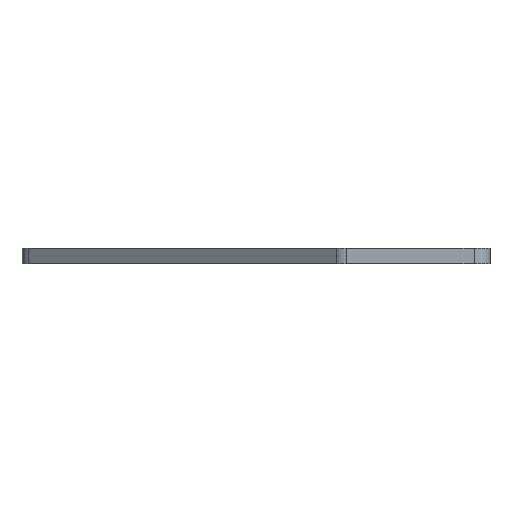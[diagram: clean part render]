
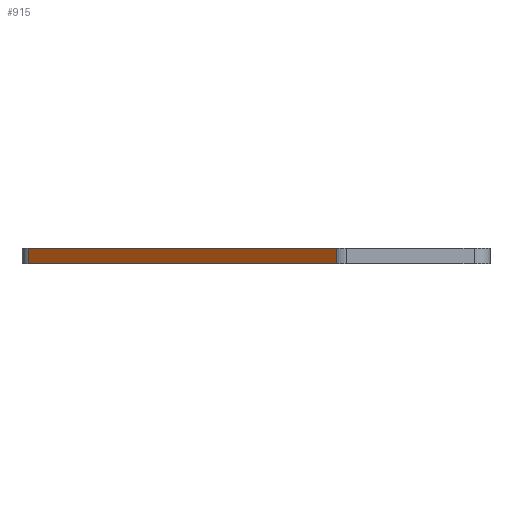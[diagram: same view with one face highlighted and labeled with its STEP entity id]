
A CAD part, left-side view. The second image highlights one B-rep face of the part: STEP entity #915.
In plain terms, the highlighted planar face has unit normal (-0.794, 0.608, 0).
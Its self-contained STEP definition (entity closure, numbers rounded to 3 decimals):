
#22 = DIRECTION ( 'NONE',  ( -0.608, -0.794, 0. ) ) ;
#61 = VECTOR ( 'NONE', #861, 1000. ) ;
#75 = CARTESIAN_POINT ( 'NONE',  ( -24.387, 54.297, 3. ) ) ;
#87 = ORIENTED_EDGE ( 'NONE', *, *, #526, .T. ) ;
#93 = ORIENTED_EDGE ( 'NONE', *, *, #995, .T. ) ;
#102 = CARTESIAN_POINT ( 'NONE',  ( -23.486, 55.472, 3. ) ) ;
#136 = VECTOR ( 'NONE', #580, 1000. ) ;
#225 = VECTOR ( 'NONE', #22, 1000. ) ;
#264 = CARTESIAN_POINT ( 'NONE',  ( -68.867, -3.72, 3. ) ) ;
#289 = FACE_OUTER_BOUND ( 'NONE', #1066, .T. ) ;
#337 = VERTEX_POINT ( 'NONE', #706 ) ;
#348 = CARTESIAN_POINT ( 'NONE',  ( -23.486, 55.472, 3. ) ) ;
#356 = DIRECTION ( 'NONE',  ( 0., 0., 1. ) ) ;
#410 = EDGE_CURVE ( 'NONE', #876, #1054, #931, .T. ) ;
#422 = LINE ( 'NONE', #264, #626 ) ;
#434 = CARTESIAN_POINT ( 'NONE',  ( -24.387, 54.297, 3. ) ) ;
#461 = CARTESIAN_POINT ( 'NONE',  ( -24.387, 54.297, 0. ) ) ;
#526 = EDGE_CURVE ( 'NONE', #876, #945, #872, .T. ) ;
#539 = DIRECTION ( 'NONE',  ( 0.794, -0.608, 0. ) ) ;
#577 = ORIENTED_EDGE ( 'NONE', *, *, #975, .T. ) ;
#580 = DIRECTION ( 'NONE',  ( 0., 0., -1. ) ) ;
#588 = AXIS2_PLACEMENT_3D ( 'NONE', #102, #539, #954 ) ;
#626 = VECTOR ( 'NONE', #356, 1000. ) ;
#706 = CARTESIAN_POINT ( 'NONE',  ( -68.867, -3.72, 0. ) ) ;
#845 = LINE ( 'NONE', #886, #225 ) ;
#861 = DIRECTION ( 'NONE',  ( -0.608, -0.794, 0. ) ) ;
#872 = LINE ( 'NONE', #75, #136 ) ;
#876 = VERTEX_POINT ( 'NONE', #434 ) ;
#878 = PLANE ( 'NONE',  #588 ) ;
#886 = CARTESIAN_POINT ( 'NONE',  ( -23.486, 55.472, 0. ) ) ;
#915 = ADVANCED_FACE ( 'NONE', ( #289 ), #878, .F. ) ;
#931 = LINE ( 'NONE', #348, #61 ) ;
#941 = CARTESIAN_POINT ( 'NONE',  ( -68.867, -3.72, 3. ) ) ;
#945 = VERTEX_POINT ( 'NONE', #461 ) ;
#954 = DIRECTION ( 'NONE',  ( 0.608, 0.794, 0. ) ) ;
#975 = EDGE_CURVE ( 'NONE', #945, #337, #845, .T. ) ;
#994 = ORIENTED_EDGE ( 'NONE', *, *, #410, .F. ) ;
#995 = EDGE_CURVE ( 'NONE', #337, #1054, #422, .T. ) ;
#1054 = VERTEX_POINT ( 'NONE', #941 ) ;
#1066 = EDGE_LOOP ( 'NONE', ( #577, #93, #994, #87 ) ) ;
